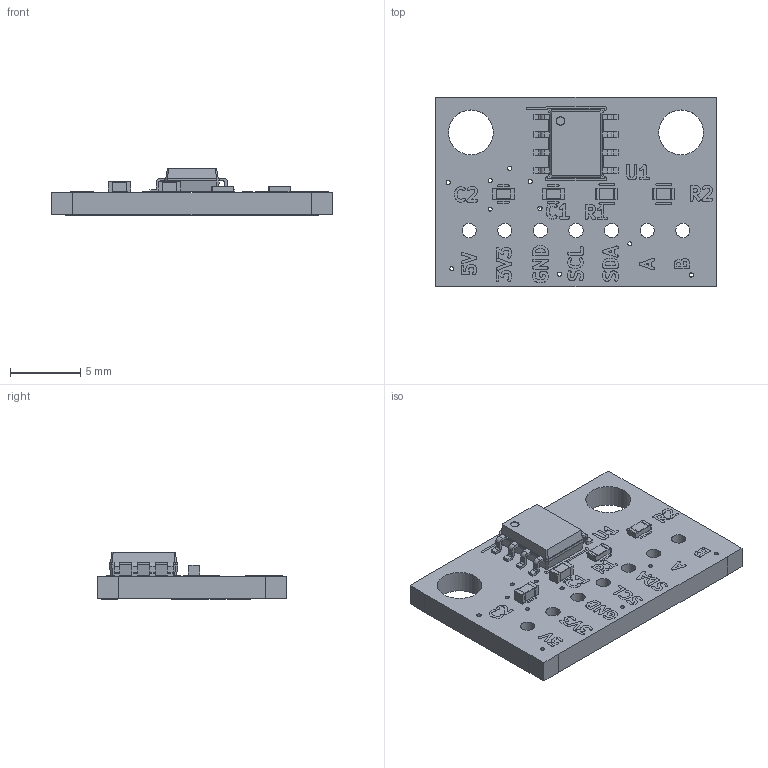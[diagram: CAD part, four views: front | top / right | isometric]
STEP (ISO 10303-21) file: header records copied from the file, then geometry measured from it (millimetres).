
FILE_DESCRIPTION(('FreeCAD Model'),'2;1');
FILE_NAME('C:/ws/GitHub/AS5601_BreakoutBoard_V1_0/PCB_source/step/AS5601_BreakoutBoard_V1_0_step.step','2021-09-18T12:48:49',('Author'),(''), 'Open CASCADE STEP processor 7.3','FreeCAD','Unknown');
FILE_SCHEMA(('AUTOMOTIVE_DESIGN { 1 0 10303 214 1 1 1 1 }'));
Length unit declared in the file: millimetre
Products named in the file (14): AS5601_BreakoutBoard_V1_0; Board_Geoms_a61c; Local_CS_a61c; Pcb_a61c; PCB_Sketch_a61c; botSilks_44af; topSilks_8569; Step_Models_a61c; Top_a61c; C1_C_0603_1608Metric_6145C4F1; C2_C_0603_1608Metric_6145C501; R1_R_0603_1608Metric_6145C511; R2_R_0603_1608Metric_6145C521; U1_SOIC_8_39x49mm_P127mm_6145C531
Assembly tree (13 placements, depth 4):
  AS5601_BreakoutBoard_V1_0
    Board_Geoms_a61c
      Local_CS_a61c
      Pcb_a61c
      PCB_Sketch_a61c
      botSilks_44af
      topSilks_8569
    Step_Models_a61c
      Top_a61c
        C1_C_0603_1608Metric_6145C4F1
        C2_C_0603_1608Metric_6145C501
        R1_R_0603_1608Metric_6145C511
        R2_R_0603_1608Metric_6145C521
        U1_SOIC_8_39x49mm_P127mm_6145C531
Bounding box: 20 x 13.5 x 3.42 mm (x, y, z)
Volume: 428.9 mm3; surface area: 829.2 mm2
Topology: 6 solids, 75 shells, 368 faces, 10764 edges, 10494 vertices
Faces by surface type: plane 242, cylinder 94, bspline 32
Full cylindrical faces by diameter (mm): 0.3 x12, 0.6 x1, 1.02 x7, 3.2 x2
Entity records: 92482 total; most frequent: CARTESIAN_POINT 21771, DIRECTION 11622, ORIENTED_EDGE 11536, EDGE_CURVE 10754, LINE 10546, VECTOR 10546, VERTEX_POINT 10471, AXIS2_PLACEMENT_3D 538
